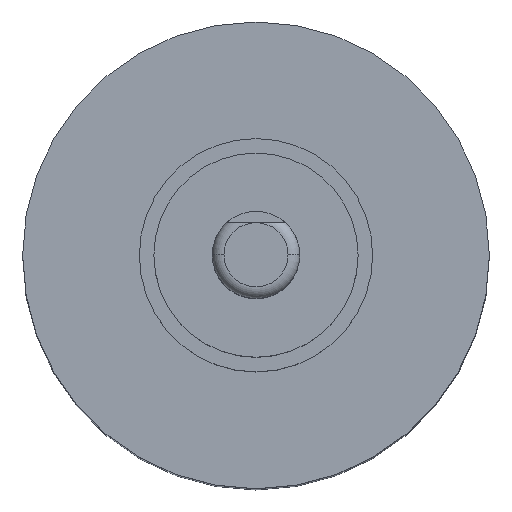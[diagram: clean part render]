
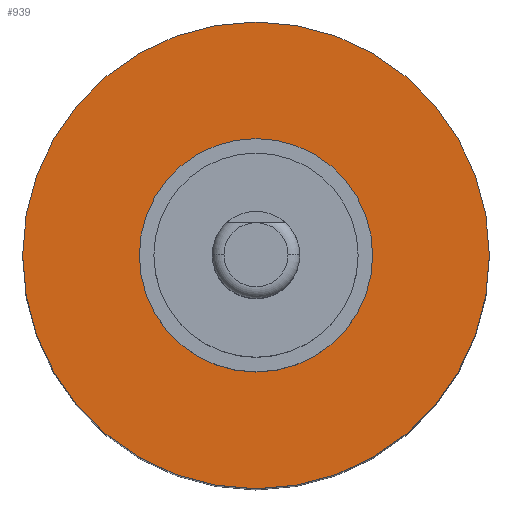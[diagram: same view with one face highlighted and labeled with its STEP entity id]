
A CAD part, top view. The second image highlights one B-rep face of the part: STEP entity #939.
In plain terms, the highlighted planar face has unit normal (0, 0, 1).
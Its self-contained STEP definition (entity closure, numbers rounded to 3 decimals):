
#42 = VERTEX_POINT ( 'NONE', #942 ) ;
#75 = ORIENTED_EDGE ( 'NONE', *, *, #648, .T. ) ;
#129 = DIRECTION ( 'NONE',  ( 0., 0., 1. ) ) ;
#179 = EDGE_LOOP ( 'NONE', ( #274, #75 ) ) ;
#274 = ORIENTED_EDGE ( 'NONE', *, *, #638, .T. ) ;
#308 = DIRECTION ( 'NONE',  ( 0., -1., 0. ) ) ;
#315 = CIRCLE ( 'NONE', #823, 4. ) ;
#397 = DIRECTION ( 'NONE',  ( 0., 0., 1. ) ) ;
#432 = DIRECTION ( 'NONE',  ( 0., -1., 0. ) ) ;
#521 = CARTESIAN_POINT ( 'NONE',  ( 0., -4., -6. ) ) ;
#525 = FACE_OUTER_BOUND ( 'NONE', #179, .T. ) ;
#547 = CARTESIAN_POINT ( 'NONE',  ( 0., 0., -6. ) ) ;
#576 = VERTEX_POINT ( 'NONE', #521 ) ;
#621 = DIRECTION ( 'NONE',  ( 0., -1., 0. ) ) ;
#638 = EDGE_CURVE ( 'NONE', #576, #42, #841, .T. ) ;
#648 = EDGE_CURVE ( 'NONE', #42, #576, #315, .T. ) ;
#689 = DIRECTION ( 'NONE',  ( 0., 0., 1. ) ) ;
#735 = CARTESIAN_POINT ( 'NONE',  ( 0., 0., -6. ) ) ;
#744 = PLANE ( 'NONE',  #889 ) ;
#823 = AXIS2_PLACEMENT_3D ( 'NONE', #547, #397, #621 ) ;
#836 = CARTESIAN_POINT ( 'NONE',  ( 0., 0., -6. ) ) ;
#841 = CIRCLE ( 'NONE', #870, 4. ) ;
#870 = AXIS2_PLACEMENT_3D ( 'NONE', #836, #689, #308 ) ;
#889 = AXIS2_PLACEMENT_3D ( 'NONE', #735, #129, #432 ) ;
#939 = ADVANCED_FACE ( 'NONE', ( #525 ), #744, .T. ) ;
#942 = CARTESIAN_POINT ( 'NONE',  ( 0., 4., -6. ) ) ;
